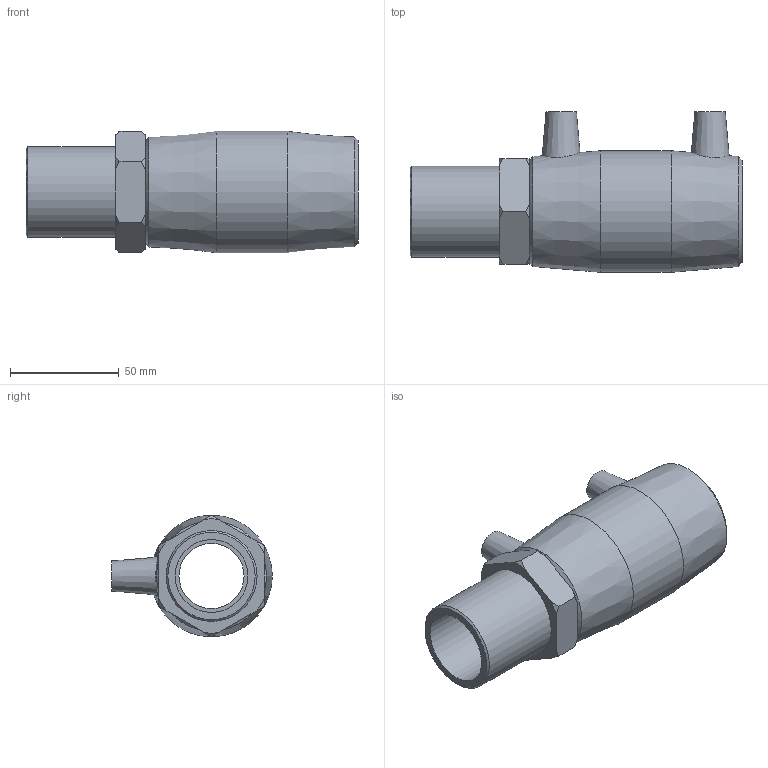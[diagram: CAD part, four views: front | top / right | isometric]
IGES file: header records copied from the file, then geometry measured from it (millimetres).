
Global section: file name: 492104040013N.ipt; native system: Autodesk Inventor 2015; preprocessor: unknown; author: KIM; date: 20200202.122313; units: millimetre
Bounding box: 153 x 74 x 56 mm (x, y, z)
Volume: 171693.9 mm3; surface area: 49705 mm2
Topology: 1 solids, 2 shells, 54 faces, 129 edges, 88 vertices
Faces by surface type: plane 21, cone 19, revolution 8, cylinder 6
Full cylindrical faces by diameter (mm): 4 x2, 40 x2, 41.91 x1, 56 x1
